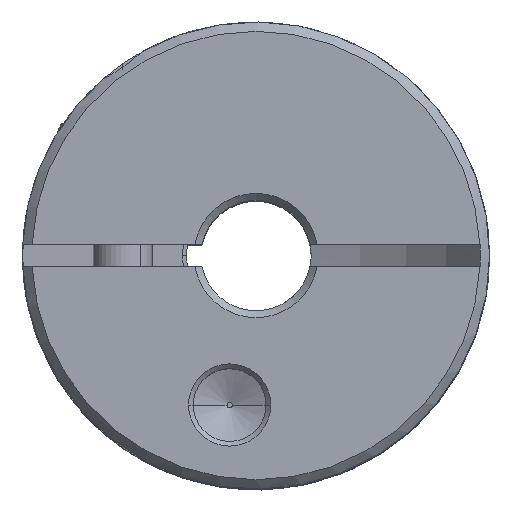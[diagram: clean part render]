
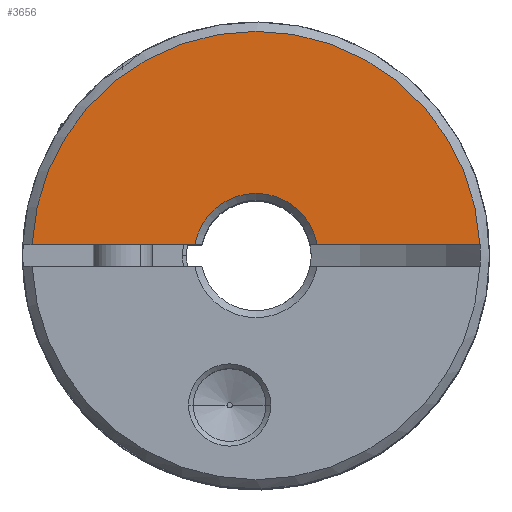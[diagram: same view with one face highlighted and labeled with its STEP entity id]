
A CAD part, top view. The second image highlights one B-rep face of the part: STEP entity #3656.
In plain terms, the highlighted planar face has unit normal (0, 0, 1).
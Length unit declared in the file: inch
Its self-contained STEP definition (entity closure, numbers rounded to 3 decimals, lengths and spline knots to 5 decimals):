
#211=CARTESIAN_POINT('',(0.47943,0.02343,0.35));
#216=CARTESIAN_POINT('',(0.,0.,0.35));
#217=DIRECTION('',(0.,0.,1.));
#218=DIRECTION('',(0.999,0.049,0.));
#219=AXIS2_PLACEMENT_3D('',#216,#217,#218);
#226=CARTESIAN_POINT('',(-0.47943,0.02344,0.35));
#322=DIRECTION('',(-1.,0.,0.));
#323=VECTOR('',#322,0.34841);
#324=CARTESIAN_POINT('',(-0.13102,0.02344,0.35));
#325=LINE('',#324,#323);
#333=DIRECTION('',(-1.,0.,0.));
#334=VECTOR('',#333,0.34841);
#335=CARTESIAN_POINT('',(0.47943,0.02343,0.35));
#336=LINE('',#335,#334);
#337=CARTESIAN_POINT('',(0.,0.,0.35));
#338=DIRECTION('',(0.,0.,-1.));
#339=DIRECTION('',(-0.984,0.176,0.));
#340=AXIS2_PLACEMENT_3D('',#337,#338,#339);
#3045=VERTEX_POINT('',#211);
#3047=VERTEX_POINT('',#226);
#3068=CARTESIAN_POINT('',(-0.13102,0.02344,0.35));
#3069=VERTEX_POINT('',#3068);
#3076=CARTESIAN_POINT('',(0.13102,0.02344,0.35));
#3077=VERTEX_POINT('',#3076);
#3643=CARTESIAN_POINT('',(0.,0.,0.35));
#3644=DIRECTION('',(0.,0.,1.));
#3645=DIRECTION('',(1.,0.,0.));
#3646=AXIS2_PLACEMENT_3D('',#3643,#3644,#3645);
#3647=PLANE('',#3646);
#3648=ORIENTED_EDGE('',*,*,#3513,.F.);
#3650=ORIENTED_EDGE('',*,*,#3649,.T.);
#3652=ORIENTED_EDGE('',*,*,#3651,.F.);
#3653=ORIENTED_EDGE('',*,*,#3619,.T.);
#3654=EDGE_LOOP('',(#3648,#3650,#3652,#3653));
#3655=FACE_OUTER_BOUND('',#3654,.F.);
#220=CIRCLE('',#219,0.48);
#341=CIRCLE('',#340,0.1331);
#3513=EDGE_CURVE('',#3045,#3047,#220,.T.);
#3619=EDGE_CURVE('',#3069,#3047,#325,.T.);
#3649=EDGE_CURVE('',#3045,#3077,#336,.T.);
#3651=EDGE_CURVE('',#3069,#3077,#341,.T.);
#3656=ADVANCED_FACE('',(#3655),#3647,.T.);
